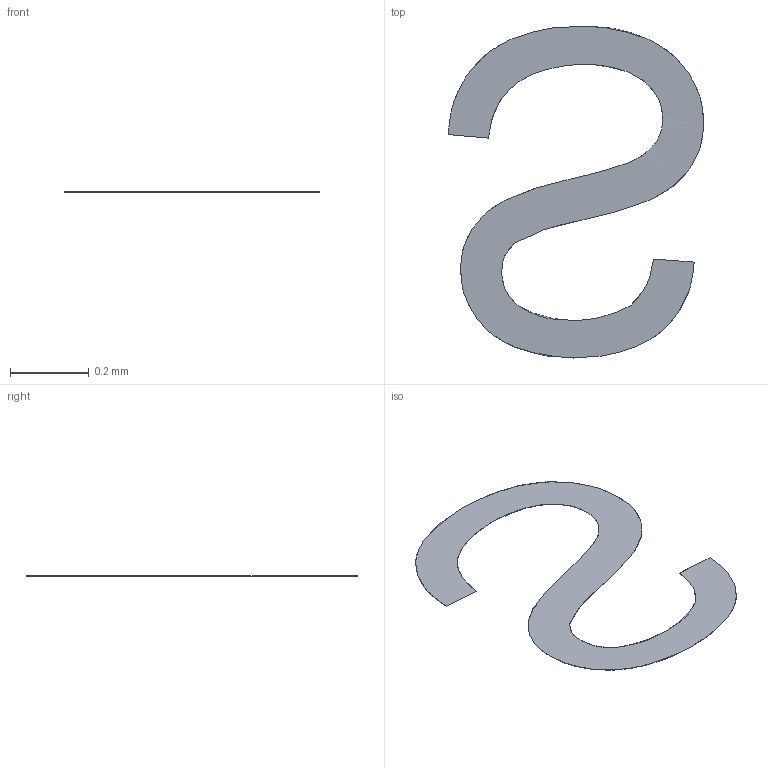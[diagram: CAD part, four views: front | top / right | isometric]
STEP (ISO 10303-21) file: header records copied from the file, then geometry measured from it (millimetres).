
FILE_DESCRIPTION(/* description */ ('STEP AP242 Edition 2','CAx-IF Rec.Pracs.---Representation and Presentation of Product Manufacturing Information (PMI)---4.0---2014-10-13','CAx-IF Rec.Pracs.---3D Tessellated Geometry---0.4---2014-09-14','2;1','CAx-IF Rec.Pracs.---User Defined Attributes---1.5---2016-08-15'),/* implementation_level */ '2;1');
FILE_NAME(/* name */ 'Drone Layout - Surface 347',/* time_stamp */ '2026-10-04T22:22:56Z',/* author */ (''),/* organization */ (''),/* preprocessor_version */ 'ST-DEVELOPER v20',/* originating_system */ 'ONSHAPE BY PTC INC, 1.221',/* authorisation */ ' ');
FILE_SCHEMA (('AP242_MANAGED_MODEL_BASED_3D_ENGINEERING_MIM_LF { 1 0 10303 442 3 1 4 }'));
Length unit declared in the file: metre
Products named in the file (1): VL53L0X:1__Body27
Bounding box: 0.65 x 0.84 x 0 mm (x, y, z)
Volume: 0 mm3; surface area: 0.4 mm2
Topology: 1 solids, 1 shells, 37 faces, 103 edges, 68 vertices
Faces by surface type: bspline 31, plane 4, cylinder 2
Entity records: 1475 total; most frequent: CARTESIAN_POINT 723, ORIENTED_EDGE 206, EDGE_CURVE 103, VERTEX_POINT 68, B_SPLINE_CURVE_WITH_KNOTS 62, DIRECTION 59, LINE 37, VECTOR 37
